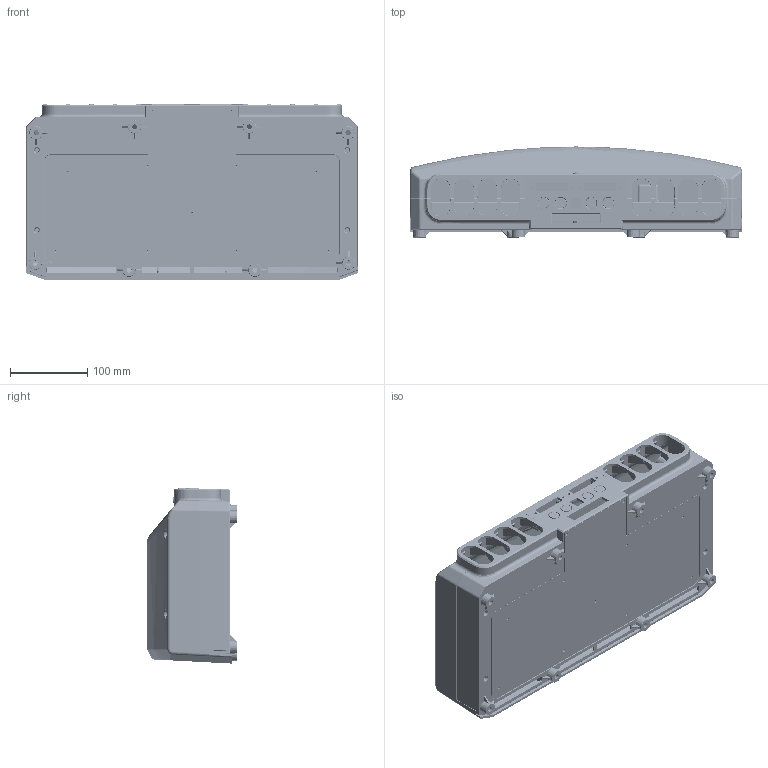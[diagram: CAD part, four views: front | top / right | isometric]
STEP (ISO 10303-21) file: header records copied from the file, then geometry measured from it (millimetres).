
FILE_DESCRIPTION (( 'STEP AP214' ), '1' );
FILE_NAME ('MG3000041A_Master LV_150_400_600_1000A_Total_Assembly.STEP', '2019-05-22T07:49:06', ( '' ), ( '' ), 'SwSTEP 2.0', 'SolidWorks 2018', '' );
FILE_SCHEMA (( 'AUTOMOTIVE_DESIGN' ));
Length unit declared in the file: millimetre
Products named in the file (6): MG5000036A_VCC_LigthPipe_LMS_033_CTP; MG4000207A_Master_LV_Enclosure_Bottom_Lid; MG4000206A_Master_LV_Enclosure_Top_Master LV std; MG4000205A_Master_LV_Enclosure_Bottom; MG3000041A_Master LV_150_400_600_1000A_Total_Assembly; countersunk flat head cross recess screw_din_DIN EN ISO 7046-1 - M3 x 30 - Z - 30N
Assembly tree (6 placements, depth 2):
  MG3000041A_Master LV_150_400_600_1000A_Total_Assembly
    MG4000205A_Master_LV_Enclosure_Bottom
    MG4000206A_Master_LV_Enclosure_Top_Master LV std
    MG5000036A_VCC_LigthPipe_LMS_033_CTP
    countersunk flat head cross recess screw_din_DIN EN ISO 7046-1 - M3 x 30 - Z - 30N  x2
    MG4000207A_Master_LV_Enclosure_Bottom_Lid
Bounding box: 430.37 x 117.82 x 227.13 mm (x, y, z)
Volume: 1285839.1 mm3; surface area: 853093.2 mm2
Topology: 5 solids, 11 shells, 11583 faces, 27091 edges, 14560 vertices
Faces by surface type: cylinder 4300, bspline 2466, plane 1894, sphere 1320, torus 1075, cone 528
Entity records: 358724 total; most frequent: CARTESIAN_POINT 120471, ORIENTED_EDGE 51628, DIRECTION 49589, EDGE_CURVE 25824, AXIS2_PLACEMENT_3D 20223, VERTEX_POINT 14497, EDGE_LOOP 11869, FACE_OUTER_BOUND 11542
